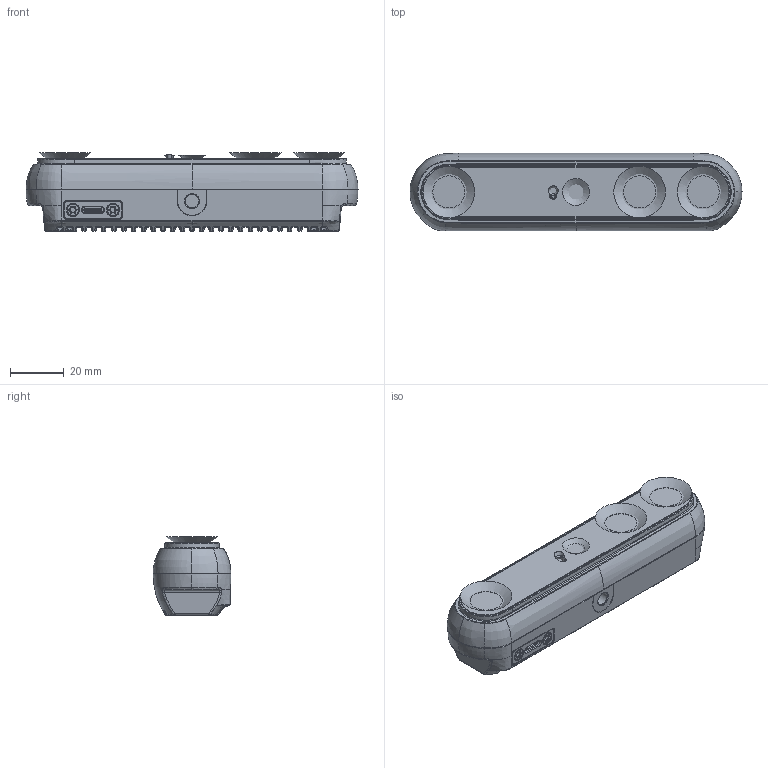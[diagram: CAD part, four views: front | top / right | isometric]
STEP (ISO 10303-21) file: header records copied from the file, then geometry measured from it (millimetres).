
FILE_DESCRIPTION(/* description */ (''),/* implementation_level */ '2;1');
FILE_NAME(/* name */ '117929.stp',/* time_stamp */ '2026-06-09T05:16:15+02:00',/* author */ (''),/* organization */ (''),/* preprocessor_version */ 'ST-DEVELOPER v20',/* originating_system */ 'Autodesk Inventor 2024',/* authorisation */ '');
FILE_SCHEMA (('CONFIG_CONTROL_DESIGN'));
Products named in the file (1): 117929
Bounding box: 124.02 x 29.03 x 29.18 mm (x, y, z)
Volume: 78217.2 mm3; surface area: 22570.3 mm2
Topology: 3 solids, 10 shells, 3541 faces, 9953 edges, 6332 vertices
Faces by surface type: plane 1775, cylinder 1023, bspline 594, torus 90, cone 57, sphere 2
Full cylindrical faces by diameter (mm): 0.4 x2, 0.52 x10, 0.53 x2, 2 x2, 2.65 x2, 3.933 x2, 4.4 x2, 4.5 x2, 5 x1, 6.7 x1, 12 x3
Entity records: 187980 total; most frequent: CARTESIAN_POINT 96265, ORIENTED_EDGE 19886, DIRECTION 16864, EDGE_CURVE 9947, VERTEX_POINT 6332, LINE 5780, VECTOR 5780, AXIS2_PLACEMENT_3D 5542
